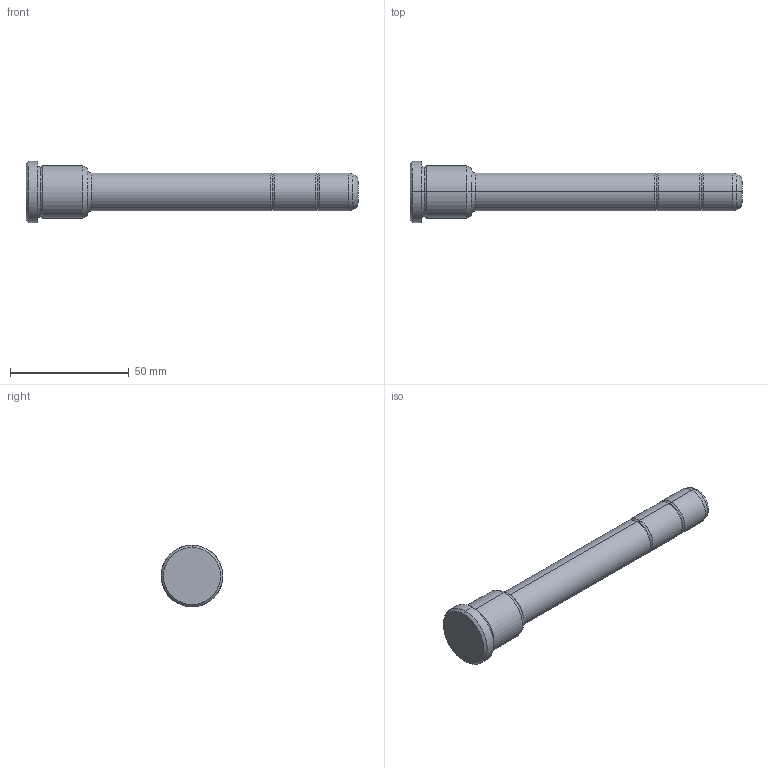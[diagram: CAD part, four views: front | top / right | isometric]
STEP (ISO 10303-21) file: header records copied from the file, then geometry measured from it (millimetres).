
FILE_DESCRIPTION(('CATIA V5 STEP Exchange'),'2;1');
FILE_NAME('C:\Users\Utente\Desktop\IO LAVORO\3D X SITO CF\X SITO\PLASTICA\351\351-16X26X140.stp','2021-08-18T11:00:23+00:00',('none'),('none'),'CATIA Version 5 Release 20 GA (IN-10)','CATIA V5 STEP AP203','none');
FILE_SCHEMA(('CONFIG_CONTROL_DESIGN'));
Length unit declared in the file: millimetre
Products named in the file (1): 351-16X26X140
Bounding box: 140 x 26 x 26 mm (x, y, z)
Volume: 33219.1 mm3; surface area: 8473.3 mm2
Topology: 1 solids, 1 shells, 36 faces, 102 edges, 70 vertices
Faces by surface type: torus 16, cylinder 10, cone 6, plane 4
Entity records: 1292 total; most frequent: CARTESIAN_POINT 321, ORIENTED_EDGE 204, DIRECTION 166, AXIS2_PLACEMENT_3D 115, EDGE_CURVE 102, CIRCLE 78, VERTEX_POINT 70, EDGE_LOOP 38
